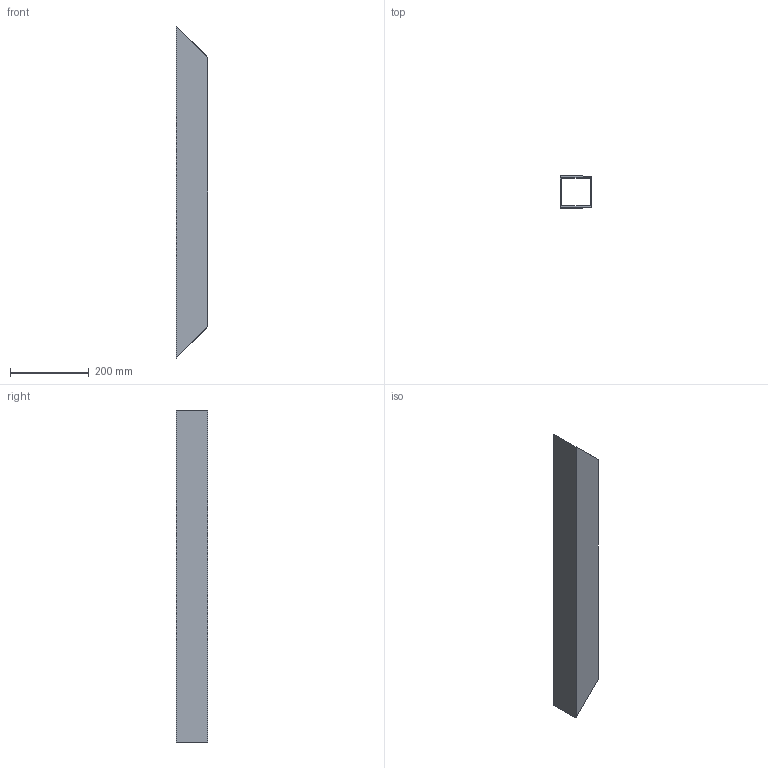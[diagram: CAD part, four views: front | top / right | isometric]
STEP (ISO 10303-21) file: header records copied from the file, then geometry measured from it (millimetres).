
FILE_DESCRIPTION(('Open CASCADE Model'),'2;1');
FILE_NAME('Open CASCADE Shape Model','2026-10-15T15:10:03',('Author'),( 'Open CASCADE'),'Open CASCADE STEP processor 8.0','Open CASCADE 8.0' ,'Unknown');
FILE_SCHEMA(('AUTOMOTIVE_DESIGN { 1 0 10303 214 1 1 1 1 }'));
Length unit declared in the file: millimetre
Products named in the file (1): SHS80x80x4_L763138_CUTb93258_P05 9
Bounding box: 80 x 80 x 843.14 mm (x, y, z)
Volume: 927976.3 mm3; surface area: 467427.5 mm2
Topology: 1 solids, 1 shells, 10 faces, 24 edges, 16 vertices
Faces by surface type: plane 10
Entity records: 586 total; most frequent: CARTESIAN_POINT 127, DIRECTION 66, ORIENTED_EDGE 48, PCURVE 48, DEFINITIONAL_REPRESENTATION 48, LINE 44, VECTOR 44, B_SPLINE_CURVE_WITH_KNOTS 28
